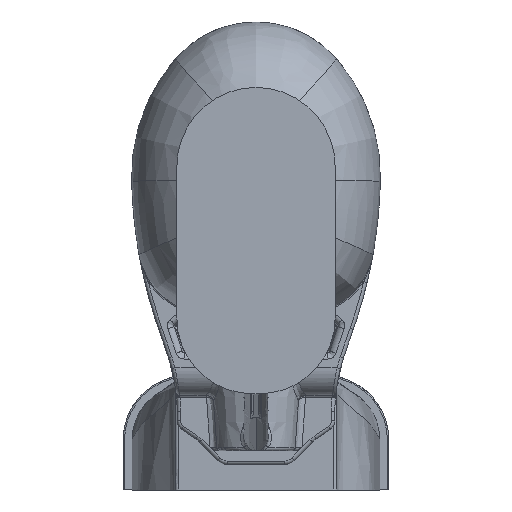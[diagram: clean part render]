
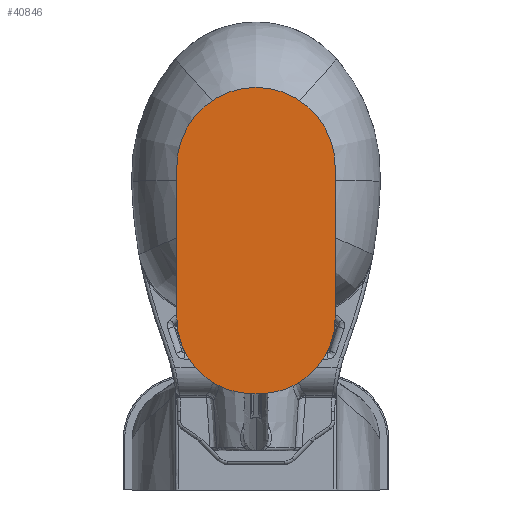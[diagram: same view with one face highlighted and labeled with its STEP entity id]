
A CAD part, front view. The second image highlights one B-rep face of the part: STEP entity #40846.
In plain terms, the highlighted planar face has unit normal (0, -1, 0).
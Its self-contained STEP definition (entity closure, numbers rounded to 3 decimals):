
#755 = AXIS2_PLACEMENT_3D ( 'NONE', #39479, #7522, #70333 ) ;
#996 = CARTESIAN_POINT ( 'NONE',  ( 115., -395., 126.5 ) ) ;
#1708 = LINE ( 'NONE', #44152, #36230 ) ;
#1758 = VERTEX_POINT ( 'NONE', #996 ) ;
#2039 = CIRCLE ( 'NONE', #2785, 110. ) ;
#2089 = VERTEX_POINT ( 'NONE', #65313 ) ;
#2785 = AXIS2_PLACEMENT_3D ( 'NONE', #28275, #59144, #22215 ) ;
#3801 = VERTEX_POINT ( 'NONE', #30543 ) ;
#4675 = VERTEX_POINT ( 'NONE', #26190 ) ;
#5131 = EDGE_CURVE ( 'NONE', #74651, #57975, #1708, .T. ) ;
#6220 = LINE ( 'NONE', #32470, #69306 ) ;
#7033 = DIRECTION ( 'NONE',  ( 0., -1., 0. ) ) ;
#7522 = DIRECTION ( 'NONE',  ( 0., -1., 0. ) ) ;
#9725 = VERTEX_POINT ( 'NONE', #24581 ) ;
#10468 = AXIS2_PLACEMENT_3D ( 'NONE', #56890, #7033, #69035 ) ;
#13129 = EDGE_CURVE ( 'NONE', #4675, #3801, #6220, .T. ) ;
#16441 = ORIENTED_EDGE ( 'NONE', *, *, #77789, .T. ) ;
#16562 = FACE_OUTER_BOUND ( 'NONE', #55528, .T. ) ;
#17250 = ORIENTED_EDGE ( 'NONE', *, *, #41315, .T. ) ;
#20137 = ORIENTED_EDGE ( 'NONE', *, *, #13129, .T. ) ;
#22215 = DIRECTION ( 'NONE',  ( 0., 0., 1. ) ) ;
#22923 = CARTESIAN_POINT ( 'NONE',  ( 5., -395., -93.5 ) ) ;
#24581 = CARTESIAN_POINT ( 'NONE',  ( 115., -395., -93.5 ) ) ;
#26190 = CARTESIAN_POINT ( 'NONE',  ( -5., -395., -203.5 ) ) ;
#28275 = CARTESIAN_POINT ( 'NONE',  ( -5., -395., -93.5 ) ) ;
#28677 = CIRCLE ( 'NONE', #755, 115. ) ;
#29521 = DIRECTION ( 'NONE',  ( 0., 1., 0. ) ) ;
#30543 = CARTESIAN_POINT ( 'NONE',  ( 5., -395., -203.5 ) ) ;
#30630 = ORIENTED_EDGE ( 'NONE', *, *, #44451, .F. ) ;
#31112 = DIRECTION ( 'NONE',  ( 0., 0., 1. ) ) ;
#31927 = DIRECTION ( 'NONE',  ( 1., 0., 0. ) ) ;
#32470 = CARTESIAN_POINT ( 'NONE',  ( -5., -395., -203.5 ) ) ;
#33265 = CARTESIAN_POINT ( 'NONE',  ( -115., -395., 126.5 ) ) ;
#36230 = VECTOR ( 'NONE', #63745, 1000. ) ;
#37987 = CARTESIAN_POINT ( 'NONE',  ( 0., -395., 126.5 ) ) ;
#39208 = CARTESIAN_POINT ( 'NONE',  ( -115., -395., -93.5 ) ) ;
#39296 = EDGE_CURVE ( 'NONE', #1758, #9725, #39965, .T. ) ;
#39479 = CARTESIAN_POINT ( 'NONE',  ( 0., -395., 126.5 ) ) ;
#39965 = LINE ( 'NONE', #75520, #57759 ) ;
#40846 = ADVANCED_FACE ( 'NONE', ( #16562 ), #75999, .F. ) ;
#41315 = EDGE_CURVE ( 'NONE', #1758, #2089, #69779, .T. ) ;
#43533 = DIRECTION ( 'NONE',  ( 0., 0., -1. ) ) ;
#44013 = DIRECTION ( 'NONE',  ( 0., 1., 0. ) ) ;
#44152 = CARTESIAN_POINT ( 'NONE',  ( -115., -395., 126.5 ) ) ;
#44451 = EDGE_CURVE ( 'NONE', #9725, #3801, #71693, .T. ) ;
#51630 = AXIS2_PLACEMENT_3D ( 'NONE', #37987, #44013, #31112 ) ;
#55528 = EDGE_LOOP ( 'NONE', ( #17250, #16441, #70950, #59397, #20137, #30630, #73411 ) ) ;
#56890 = CARTESIAN_POINT ( 'NONE',  ( 0., -395., 126.5 ) ) ;
#57759 = VECTOR ( 'NONE', #43533, 1000. ) ;
#57975 = VERTEX_POINT ( 'NONE', #39208 ) ;
#59144 = DIRECTION ( 'NONE',  ( 0., -1., 0. ) ) ;
#59397 = ORIENTED_EDGE ( 'NONE', *, *, #77299, .T. ) ;
#60936 = DIRECTION ( 'NONE',  ( 0., 0., 1. ) ) ;
#63745 = DIRECTION ( 'NONE',  ( 0., 0., -1. ) ) ;
#65313 = CARTESIAN_POINT ( 'NONE',  ( 0., -395., 241.5 ) ) ;
#69035 = DIRECTION ( 'NONE',  ( 0., 0., 1. ) ) ;
#69306 = VECTOR ( 'NONE', #31927, 1000. ) ;
#69779 = CIRCLE ( 'NONE', #10468, 115. ) ;
#70333 = DIRECTION ( 'NONE',  ( 0., 0., 1. ) ) ;
#70950 = ORIENTED_EDGE ( 'NONE', *, *, #5131, .T. ) ;
#71693 = CIRCLE ( 'NONE', #77109, 110. ) ;
#73411 = ORIENTED_EDGE ( 'NONE', *, *, #39296, .F. ) ;
#74651 = VERTEX_POINT ( 'NONE', #33265 ) ;
#75520 = CARTESIAN_POINT ( 'NONE',  ( 115., -395., 126.5 ) ) ;
#75999 = PLANE ( 'NONE',  #51630 ) ;
#77109 = AXIS2_PLACEMENT_3D ( 'NONE', #22923, #29521, #60936 ) ;
#77299 = EDGE_CURVE ( 'NONE', #57975, #4675, #2039, .T. ) ;
#77789 = EDGE_CURVE ( 'NONE', #2089, #74651, #28677, .T. ) ;
